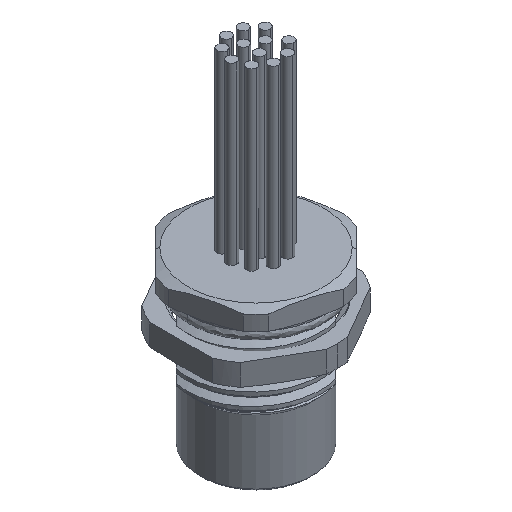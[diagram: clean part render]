
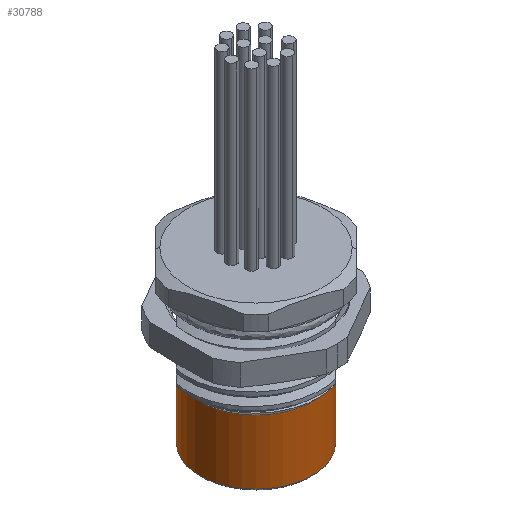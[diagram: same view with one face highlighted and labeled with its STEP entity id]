
A CAD part, isometric view. The second image highlights one B-rep face of the part: STEP entity #30788.
In plain terms, the highlighted cylindrical face has radius 6.75 mm (diameter 13.5 mm), a partial arc.
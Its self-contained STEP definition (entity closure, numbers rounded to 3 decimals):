
#1096 = VERTEX_POINT ( 'NONE', #37973 ) ;
#1443 = DIRECTION ( 'NONE',  ( -0.707, 0.707, 0. ) ) ;
#2957 = ORIENTED_EDGE ( 'NONE', *, *, #27498, .T. ) ;
#3147 = VERTEX_POINT ( 'NONE', #22371 ) ;
#3705 = LINE ( 'NONE', #22633, #5114 ) ;
#4050 = AXIS2_PLACEMENT_3D ( 'NONE', #22208, #21506, #12301 ) ;
#4606 = EDGE_CURVE ( 'NONE', #5290, #1096, #17124, .T. ) ;
#5114 = VECTOR ( 'NONE', #7560, 1000. ) ;
#5290 = VERTEX_POINT ( 'NONE', #19602 ) ;
#7560 = DIRECTION ( 'NONE',  ( 0., 0., -1. ) ) ;
#7640 = CYLINDRICAL_SURFACE ( 'NONE', #22212, 6.75 ) ;
#7692 = EDGE_CURVE ( 'NONE', #3147, #19722, #3705, .T. ) ;
#8591 = FACE_OUTER_BOUND ( 'NONE', #8719, .T. ) ;
#8719 = EDGE_LOOP ( 'NONE', ( #22114, #2957, #24308, #37188 ) ) ;
#10261 = CARTESIAN_POINT ( 'NONE',  ( -4.773, 4.773, 0. ) ) ;
#12301 = DIRECTION ( 'NONE',  ( 0.707, 0.707, 0. ) ) ;
#15060 = DIRECTION ( 'NONE',  ( 0., 0., -1. ) ) ;
#17124 = LINE ( 'NONE', #10261, #34709 ) ;
#18503 = CIRCLE ( 'NONE', #4050, 6.75 ) ;
#19575 = CARTESIAN_POINT ( 'NONE',  ( 0., 0., 0. ) ) ;
#19602 = CARTESIAN_POINT ( 'NONE',  ( -4.773, 4.773, 0. ) ) ;
#19722 = VERTEX_POINT ( 'NONE', #34510 ) ;
#21506 = DIRECTION ( 'NONE',  ( 0., 0., -1. ) ) ;
#22114 = ORIENTED_EDGE ( 'NONE', *, *, #7692, .F. ) ;
#22208 = CARTESIAN_POINT ( 'NONE',  ( 0., 0., -7.7 ) ) ;
#22212 = AXIS2_PLACEMENT_3D ( 'NONE', #19575, #22897, #1443 ) ;
#22371 = CARTESIAN_POINT ( 'NONE',  ( 4.773, -4.773, 0. ) ) ;
#22633 = CARTESIAN_POINT ( 'NONE',  ( 4.773, -4.773, 0. ) ) ;
#22897 = DIRECTION ( 'NONE',  ( 0., 0., -1. ) ) ;
#24308 = ORIENTED_EDGE ( 'NONE', *, *, #4606, .T. ) ;
#27498 = EDGE_CURVE ( 'NONE', #3147, #5290, #33616, .T. ) ;
#30220 = CARTESIAN_POINT ( 'NONE',  ( 0., 0., 0. ) ) ;
#30788 = ADVANCED_FACE ( 'NONE', ( #8591 ), #7640, .T. ) ;
#33616 = CIRCLE ( 'NONE', #38681, 6.75 ) ;
#34510 = CARTESIAN_POINT ( 'NONE',  ( 4.773, -4.773, -7.7 ) ) ;
#34709 = VECTOR ( 'NONE', #38144, 1000. ) ;
#36497 = EDGE_CURVE ( 'NONE', #19722, #1096, #18503, .T. ) ;
#37188 = ORIENTED_EDGE ( 'NONE', *, *, #36497, .F. ) ;
#37973 = CARTESIAN_POINT ( 'NONE',  ( -4.773, 4.773, -7.7 ) ) ;
#38144 = DIRECTION ( 'NONE',  ( 0., 0., -1. ) ) ;
#38681 = AXIS2_PLACEMENT_3D ( 'NONE', #30220, #15060, #39379 ) ;
#39379 = DIRECTION ( 'NONE',  ( -0.707, -0.707, 0. ) ) ;
